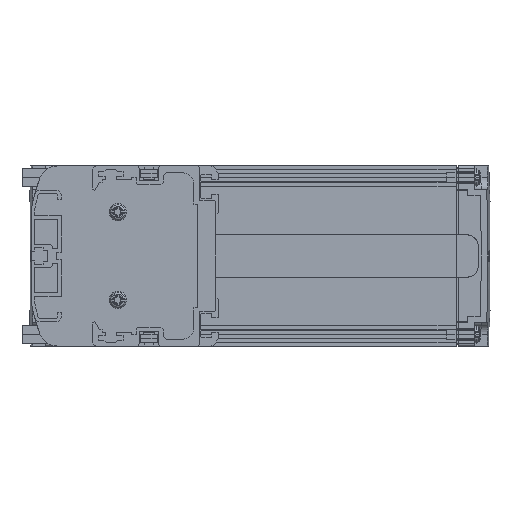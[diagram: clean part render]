
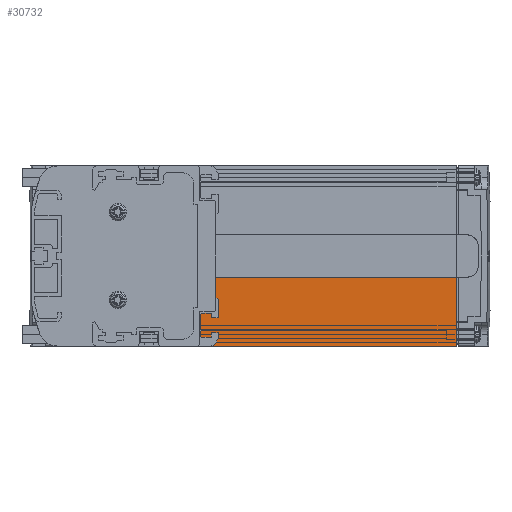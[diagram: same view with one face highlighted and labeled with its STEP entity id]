
A CAD part, left-side view. The second image highlights one B-rep face of the part: STEP entity #30732.
In plain terms, the highlighted planar face has unit normal (-1, 0, 0).
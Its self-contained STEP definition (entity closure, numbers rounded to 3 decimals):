
#3652=DIRECTION('',(0.,0.,1.));
#3653=VECTOR('',#3652,13.9);
#3654=CARTESIAN_POINT('',(3.,1.,-23.));
#3655=LINE('',#3654,#3653);
#4344=CARTESIAN_POINT('',(3.,2.,-23.));
#4345=DIRECTION('',(-1.,0.,0.));
#4346=DIRECTION('',(0.,0.,-1.));
#4347=AXIS2_PLACEMENT_3D('',#4344,#4345,#4346);
#4357=DIRECTION('',(0.,0.,1.));
#4358=VECTOR('',#4357,29.9);
#4359=CARTESIAN_POINT('',(3.,-103.,-39.));
#4360=LINE('',#4359,#4358);
#4377=DIRECTION('',(0.,1.,0.));
#4378=VECTOR('',#4377,104.);
#4379=CARTESIAN_POINT('',(3.,-103.,-9.1));
#4380=LINE('',#4379,#4378);
#8643=DIRECTION('',(0.,1.,0.));
#8644=VECTOR('',#8643,112.);
#8645=CARTESIAN_POINT('',(3.,-103.,-39.));
#8646=LINE('',#8645,#8644);
#9838=CARTESIAN_POINT('',(3.,9.,-38.));
#9839=DIRECTION('',(-1.,0.,0.));
#9840=DIRECTION('',(0.,0.,-1.));
#9841=AXIS2_PLACEMENT_3D('',#9838,#9839,#9840);
#9851=DIRECTION('',(0.,0.,-1.));
#9852=VECTOR('',#9851,14.);
#9853=CARTESIAN_POINT('',(3.,8.,-24.));
#9854=LINE('',#9853,#9852);
#9855=DIRECTION('',(0.,1.,0.));
#9856=VECTOR('',#9855,6.);
#9857=CARTESIAN_POINT('',(3.,2.,-24.));
#9858=LINE('',#9857,#9856);
#19882=CARTESIAN_POINT('',(3.,-103.,-39.));
#19883=VERTEX_POINT('',#19882);
#19884=CARTESIAN_POINT('',(3.,-103.,-9.1));
#19885=VERTEX_POINT('',#19884);
#24323=CARTESIAN_POINT('',(3.,1.,-23.));
#24324=CARTESIAN_POINT('',(3.,1.,-9.1));
#24325=VERTEX_POINT('',#24323);
#24326=VERTEX_POINT('',#24324);
#24371=CARTESIAN_POINT('',(3.,9.,-39.));
#24372=CARTESIAN_POINT('',(3.,8.,-38.));
#24373=VERTEX_POINT('',#24371);
#24374=VERTEX_POINT('',#24372);
#24375=CARTESIAN_POINT('',(3.,8.,-24.));
#24376=VERTEX_POINT('',#24375);
#24377=CARTESIAN_POINT('',(3.,2.,-24.));
#24378=VERTEX_POINT('',#24377);
#30711=CARTESIAN_POINT('',(3.,-18.,-24.05));
#30712=DIRECTION('',(1.,0.,0.));
#30713=DIRECTION('',(0.,0.,-1.));
#30714=AXIS2_PLACEMENT_3D('',#30711,#30712,#30713);
#30715=PLANE('',#30714);
#30716=ORIENTED_EDGE('',*,*,#27955,.T.);
#30718=ORIENTED_EDGE('',*,*,#30717,.F.);
#30720=ORIENTED_EDGE('',*,*,#30719,.F.);
#30722=ORIENTED_EDGE('',*,*,#30721,.T.);
#30724=ORIENTED_EDGE('',*,*,#30723,.T.);
#30726=ORIENTED_EDGE('',*,*,#30725,.F.);
#30728=ORIENTED_EDGE('',*,*,#30727,.F.);
#30729=ORIENTED_EDGE('',*,*,#30702,.T.);
#30730=EDGE_LOOP('',(#30716,#30718,#30720,#30722,#30724,#30726,#30728,#30729));
#30731=FACE_OUTER_BOUND('',#30730,.F.);
#30732=ADVANCED_FACE('',(#30731),#30715,.F.);
#4348=CIRCLE('',#4347,1.);
#9842=CIRCLE('',#9841,1.);
#27955=EDGE_CURVE('',#24325,#24326,#3655,.T.);
#30702=EDGE_CURVE('',#24378,#24325,#4348,.T.);
#30717=EDGE_CURVE('',#19885,#24326,#4380,.T.);
#30719=EDGE_CURVE('',#19883,#19885,#4360,.T.);
#30721=EDGE_CURVE('',#19883,#24373,#8646,.T.);
#30723=EDGE_CURVE('',#24373,#24374,#9842,.T.);
#30725=EDGE_CURVE('',#24376,#24374,#9854,.T.);
#30727=EDGE_CURVE('',#24378,#24376,#9858,.T.);
